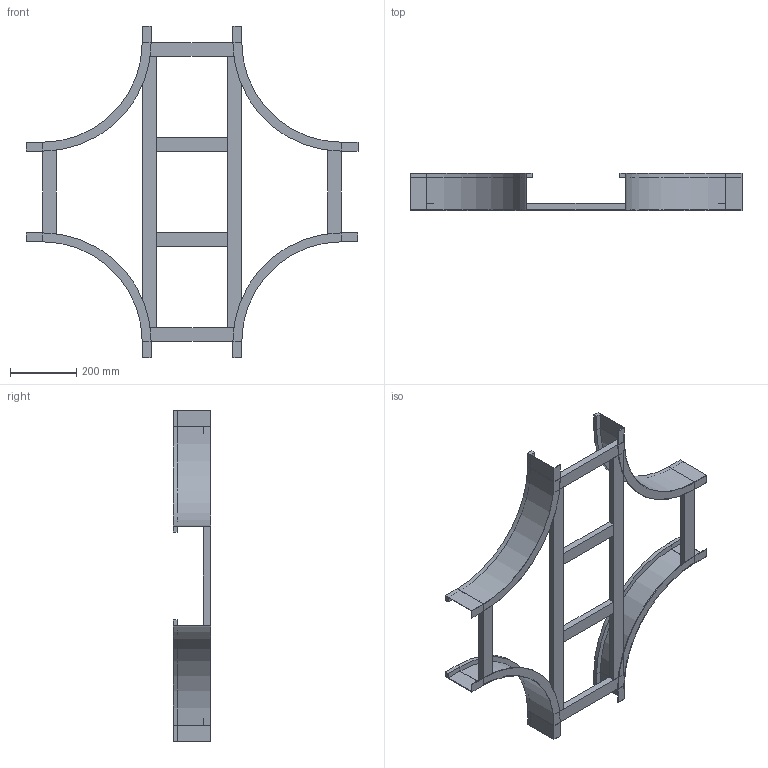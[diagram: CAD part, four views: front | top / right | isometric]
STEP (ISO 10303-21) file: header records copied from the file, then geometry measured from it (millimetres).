
FILE_DESCRIPTION (( 'STEP AP214' ), '1' );
FILE_NAME ('B2_17B3J300.step', '2025-02-21T15:57:14', ( '' ), ( '' ), 'SwSTEP 2.0', 'SolidWorks 2023', '' );
FILE_SCHEMA (( 'AUTOMOTIVE_DESIGN' ));
Length unit declared in the file: millimetre
Products named in the file (5): B2_LONGH.INTERNO 90°_H112.5_R300; B2_TRAVERSINO_LONG._R300+300; TRAVERSINO_300; TRAVERSINO_INTERMEDIO_R300+300; B2_17B3J300
Assembly tree (12 placements, depth 2):
  B2_17B3J300
    B2_LONGH.INTERNO 90°_H112.5_R300  x4
    TRAVERSINO_300  x4
    B2_TRAVERSINO_LONG._R300+300  x2
    TRAVERSINO_INTERMEDIO_R300+300  x2
Bounding box: 1000 x 112.5 x 1000 mm (x, y, z)
Volume: 3719227 mm3; surface area: 1130334.5 mm2
Topology: 12 solids, 12 shells, 152 faces, 320 edges, 192 vertices
Faces by surface type: plane 136, cylinder 16
Entity records: 1354 total; most frequent: DIRECTION 218, CARTESIAN_POINT 207, ORIENTED_EDGE 184, EDGE_CURVE 92, VECTOR 84, LINE 84, AXIS2_PLACEMENT_3D 67, VERTEX_POINT 56
